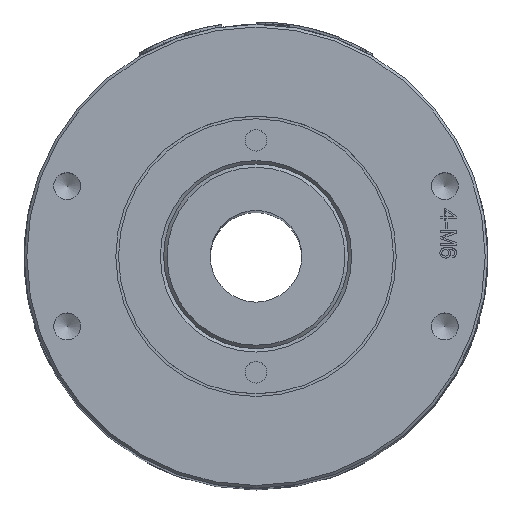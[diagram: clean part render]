
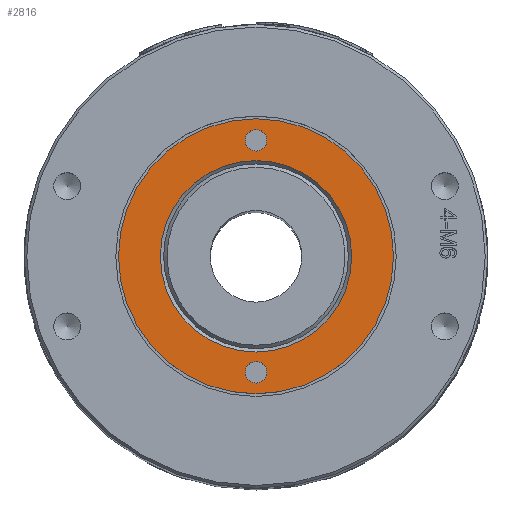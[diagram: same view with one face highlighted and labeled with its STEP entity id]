
A CAD part, top view. The second image highlights one B-rep face of the part: STEP entity #2816.
In plain terms, the highlighted planar face has unit normal (0, 0, 1).
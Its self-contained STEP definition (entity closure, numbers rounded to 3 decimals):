
#294=FACE_BOUND('',#7675,.T.);
#295=FACE_BOUND('',#7676,.T.);
#296=FACE_BOUND('',#7677,.T.);
#297=FACE_BOUND('',#7678,.T.);
#732=CIRCLE('',#26924,2.);
#734=CIRCLE('',#26928,2.);
#735=CIRCLE('',#26931,17.75);
#737=CIRCLE('',#26935,25.5);
#1388=PLANE('',#26939);
#2816=ADVANCED_FACE('',(#294,#295,#296,#297),#1388,.T.);
#7675=EDGE_LOOP('',(#11754));
#7676=EDGE_LOOP('',(#11755));
#7677=EDGE_LOOP('',(#11756));
#7678=EDGE_LOOP('',(#11757));
#11754=ORIENTED_EDGE('',*,*,#21257,.T.);
#11755=ORIENTED_EDGE('',*,*,#21259,.T.);
#11756=ORIENTED_EDGE('',*,*,#21260,.T.);
#11757=ORIENTED_EDGE('',*,*,#21262,.F.);
#17854=VERTEX_POINT('',#46412);
#17856=VERTEX_POINT('',#46418);
#17857=VERTEX_POINT('',#46422);
#17859=VERTEX_POINT('',#46428);
#21257=EDGE_CURVE('',#17854,#17854,#732,.T.);
#21259=EDGE_CURVE('',#17856,#17856,#734,.T.);
#21260=EDGE_CURVE('',#17857,#17857,#735,.T.);
#21262=EDGE_CURVE('',#17859,#17859,#737,.T.);
#26924=AXIS2_PLACEMENT_3D('',#46411,#29192,#29193);
#26928=AXIS2_PLACEMENT_3D('',#46417,#29200,#29201);
#26931=AXIS2_PLACEMENT_3D('',#46421,#29206,#29207);
#26935=AXIS2_PLACEMENT_3D('',#46427,#29214,#29215);
#26939=AXIS2_PLACEMENT_3D('',#46433,#29222,#29223);
#29192=DIRECTION('',(0.,0.,-1.));
#29193=DIRECTION('',(1.,0.,0.));
#29200=DIRECTION('',(0.,0.,-1.));
#29201=DIRECTION('',(-1.,0.,0.));
#29206=DIRECTION('',(0.,0.,-1.));
#29207=DIRECTION('',(1.,0.,0.));
#29214=DIRECTION('',(0.,0.,-1.));
#29215=DIRECTION('',(1.,0.,0.));
#29222=DIRECTION('',(0.,0.,1.));
#29223=DIRECTION('',(1.,0.,0.));
#46411=CARTESIAN_POINT('',(0.,21.5,222.5));
#46412=CARTESIAN_POINT('',(2.,21.5,222.5));
#46417=CARTESIAN_POINT('',(0.,-21.5,222.5));
#46418=CARTESIAN_POINT('',(-2.,-21.5,222.5));
#46421=CARTESIAN_POINT('',(0.,0.,222.5));
#46422=CARTESIAN_POINT('',(17.75,0.,222.5));
#46427=CARTESIAN_POINT('',(0.,0.,222.5));
#46428=CARTESIAN_POINT('',(25.5,0.,222.5));
#46433=CARTESIAN_POINT('',(0.,0.,222.5));
